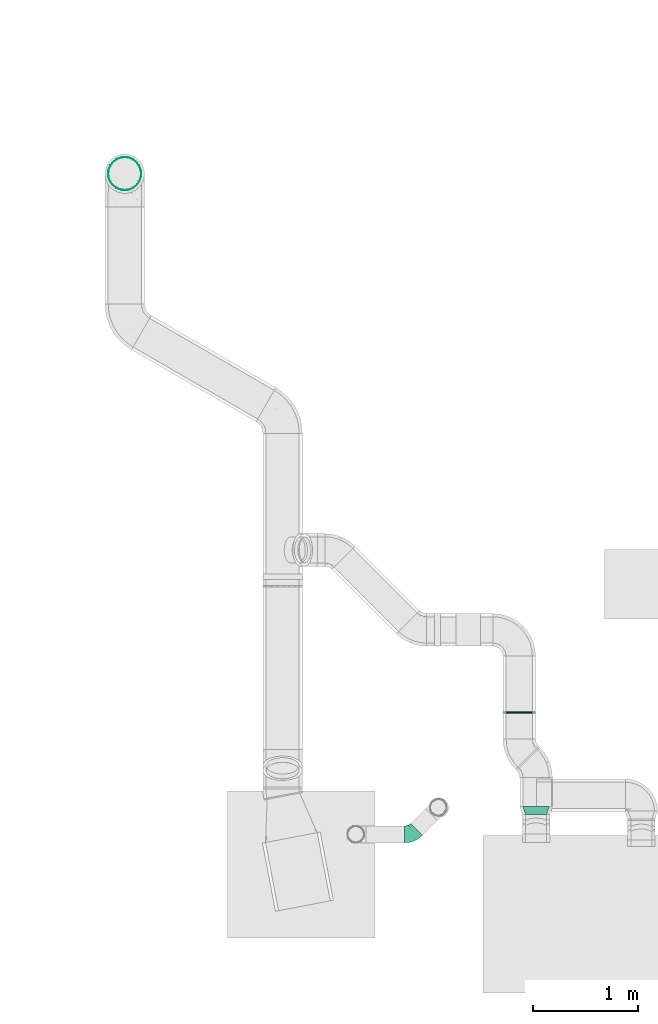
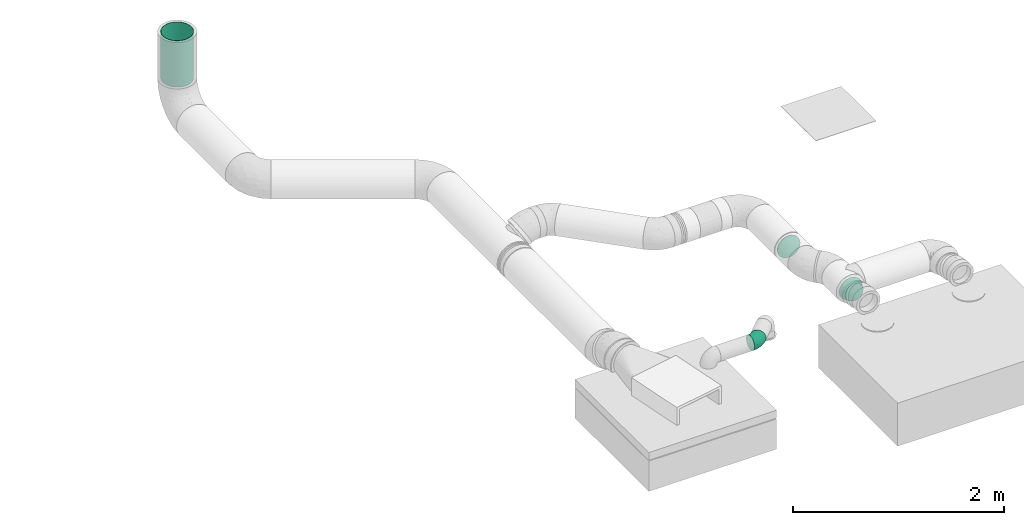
# One storey, part 17 of 21: 3 flow fittings, 1 flow segment.
"""IFC2X3 building model written with IfcOpenShell, lengths in millimetres."""

from ifc_helpers import new_model, entity, si_unit, converted_unit, derived_unit, direction, frame, origin_with_axes, place, context, subcontext, project, spatial, open_shell, faceted_brep, surface_model, source, transform, mapped, type_object, element, save


model = new_model("IFC2X3")

# Units and contexts
model_context = context("Model", 3, precision=0.01, world=frame((0.0, 4.29681676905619e-09, 0.0)), true_north=direction((4.01073788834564e-13, 1.0)))
plan_context = context("Plan", 3, precision=0.01, world=frame((0.0, 4.29681676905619e-09, 0.0)), true_north=direction((4.01073788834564e-13, 1.0)))
body_context = subcontext(model_context, "Body", "Model", "MODEL_VIEW")
ifc_project = project(units=[converted_unit("PLANEANGLEUNIT", "DEGREE", entity("IfcPositiveLengthMeasure", 0.0174532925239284), si_unit("PLANEANGLEUNIT", "RADIAN"), dimensions=[0, 0, 0, 0, 0, 0, 0]), si_unit("AREAUNIT", "SQUARE_METRE"), si_unit("LENGTHUNIT", "METRE", prefix="MILLI"), si_unit("MASSUNIT", "GRAM", prefix="KILO"), si_unit("POWERUNIT", "WATT"), si_unit("PRESSUREUNIT", "PASCAL"), si_unit("FORCEUNIT", "NEWTON", prefix="KILO"), si_unit("ELECTRICVOLTAGEUNIT", "VOLT"), si_unit("ELECTRICCURRENTUNIT", "AMPERE"), si_unit("THERMODYNAMICTEMPERATUREUNIT", "DEGREE_CELSIUS"), si_unit("TIMEUNIT", "SECOND"), si_unit("VOLUMEUNIT", "CUBIC_METRE"), derived_unit("LINEARVELOCITYUNIT", [(si_unit("LENGTHUNIT", "METRE"), 1), (si_unit("TIMEUNIT", "SECOND"), -1)]), derived_unit("VOLUMETRICFLOWRATEUNIT", [(si_unit("VOLUMEUNIT", "CUBIC_METRE"), 1), (si_unit("TIMEUNIT", "SECOND"), -1)]), derived_unit("THERMALTRANSMITTANCEUNIT", [(si_unit("POWERUNIT", "WATT"), 1), (si_unit("THERMODYNAMICTEMPERATUREUNIT", "KELVIN"), -1), (si_unit("AREAUNIT", "SQUARE_METRE"), -1)]), derived_unit("SOUNDPRESSUREUNIT", [(si_unit("PRESSUREUNIT", "PASCAL"), 1)])], contexts=[model_context, plan_context])

# Site, building, storey
site_placement = place(None, frame((0.0, -4.29681676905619e-09, 0.0), z_axis=(0.0, 0.0, 1.0), x_axis=(1.0, 0.0, 0.0)))
site = spatial("IfcSite", under=ifc_project, at=site_placement, Name="ENGM", CompositionType="ELEMENT")
building_placement = place(site_placement, frame((0.0, 4.29681676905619e-09, 0.0), z_axis=(0.0, 0.0, 1.0), x_axis=(1.0, 0.0, 0.0)))
building = spatial("IfcBuilding", under=site, at=building_placement, Name="TI", CompositionType="ELEMENT")
storey_placement = place(building_placement, frame((0.0, 0.0, 210900.0), z_axis=(0.0, 0.0, 1.0), x_axis=(1.0, 0.0, 0.0)))
storey = spatial("IfcBuildingStorey", under=building, at=storey_placement, Name="Nivå F", CompositionType="ELEMENT", Elevation=210900.0)

# Flow fittings
duct_fitting_type_1 = type_object("IfcDuctFittingType", Name="magicirc_joint_001", PredefinedType="CONNECTOR")
shared_shape_1 = source(origin_with_axes(), body_context, "Body", "SurfaceModel", [
    surface_model("IfcShellBasedSurfaceModel", [(0.0, 32.35238, -120.74073), (0.0, 0.0, -125.0), (0.0, 108.25318, -62.5), (0.0, 62.5, -108.25318), (0.0, 88.38835, -88.38835), (0.0, 120.74073, -32.35238), (0.0, -32.35238, -120.74073), (0.0, -62.5, -108.25318), (0.0, -88.38835, -88.38835), (0.0, -125.0, 0.0), (0.0, -108.25318, -62.5), (0.0, -120.74073, -32.35238), (0.0, 125.0, 0.0), (0.0, 108.25318, 62.5), (0.0, 120.74073, 32.35238), (0.0, 88.38835, 88.38835), (0.0, 32.35238, 120.74073), (0.0, 62.5, 108.25318), (0.0, -32.35238, 120.74073), (0.0, -88.38835, 88.38835), (0.0, -62.5, 108.25318), (0.0, -108.25318, 62.5), (0.0, -120.74073, 32.35238), (0.0, 0.0, 125.0), (10.0, 88.38835, -88.38835), (10.0, 0.0, -125.0), (10.0, 32.35238, -120.74073), (10.0, 62.5, -108.25318), (10.0, 108.25318, -62.5), (10.0, 120.74073, -32.35238), (10.0, -32.35238, -120.74073), (10.0, -88.38835, -88.38835), (10.0, -62.5, -108.25318), (10.0, -125.0, 0.0), (10.0, -120.74073, -32.35238), (10.0, -108.25318, -62.5), (10.0, -108.25318, 62.5), (10.0, 88.38835, 88.38835), (10.0, 125.0, 0.0), (10.0, 120.74073, 32.35238), (10.0, 108.25318, 62.5), (10.0, 62.5, 108.25318), (10.0, 32.35238, 120.74073), (10.0, -32.35238, 120.74073), (10.0, -62.5, 108.25318), (10.0, -88.38835, 88.38835), (10.0, -120.74073, 32.35238), (10.0, 0.0, 125.0)], [open_shell([[[0, 1, 2]], [[3, 0, 4]], [[1, 5, 2]], [[4, 0, 2]], [[6, 5, 1]], [[7, 8, 6]], [[9, 6, 8]], [[10, 11, 8]], [[9, 8, 11]], [[9, 5, 6]], [[9, 12, 5]], [[13, 14, 12]], [[15, 13, 12]], [[16, 17, 15]], [[12, 16, 15]], [[9, 18, 16]], [[19, 20, 21]], [[21, 9, 22]], [[9, 21, 20]], [[9, 20, 18]], [[16, 18, 23]], [[12, 9, 16]], [[24, 25, 26]], [[24, 26, 27]], [[28, 29, 25]], [[28, 25, 24]], [[25, 29, 30]], [[30, 31, 32]], [[31, 30, 33]], [[31, 34, 35]], [[34, 31, 33]], [[30, 29, 33]], [[29, 36, 33]], [[37, 38, 39]], [[37, 39, 40]], [[37, 41, 42]], [[38, 37, 43]], [[43, 37, 42]], [[36, 44, 45]], [[46, 33, 36]], [[38, 44, 36]], [[38, 43, 44]], [[47, 43, 42]], [[36, 29, 38]], [[46, 9, 33]], [[36, 22, 46]], [[19, 45, 44]], [[36, 45, 21]], [[20, 44, 43]], [[36, 21, 22]], [[22, 9, 46]], [[18, 47, 23]], [[18, 20, 43]], [[19, 44, 20]], [[19, 21, 45]], [[47, 18, 43]], [[41, 16, 42]], [[37, 17, 41]], [[13, 40, 39]], [[37, 40, 15]], [[14, 39, 38]], [[41, 17, 16]], [[16, 23, 42]], [[14, 13, 39]], [[15, 40, 13]], [[15, 17, 37]], [[12, 14, 38]], [[42, 23, 47]], [[29, 12, 38]], [[28, 5, 29]], [[4, 24, 27]], [[28, 24, 2]], [[3, 27, 26]], [[28, 2, 5]], [[5, 12, 29]], [[0, 25, 1]], [[0, 3, 26]], [[4, 27, 3]], [[4, 2, 24]], [[25, 0, 26]], [[6, 30, 32]], [[7, 32, 31]], [[11, 35, 34]], [[9, 34, 33]], [[31, 35, 8]], [[32, 7, 6]], [[6, 1, 30]], [[8, 35, 10]], [[11, 10, 35]], [[9, 11, 34]], [[8, 7, 31]], [[30, 1, 25]]])]),
])
flow_fitting_1_placement = place(storey_placement, frame((609569.51365, 691985.29135, 2600.0), z_axis=(0.0, 0.0, 1.0), x_axis=(0.0, -1.0, 0.0)))
element("IfcFlowFitting", 1, at=flow_fitting_1_placement, inside=storey, type_object=duct_fitting_type_1, Name="magicirc_joint_001", context=body_context, shape_type="MappedRepresentation", body=[
    mapped(shared_shape_1, transform((0.0, 0.0, 0.0), scale=1.0)),
])
duct_fitting_type_2 = type_object("IfcDuctFittingType", Name="magicirc_reduction_001", PredefinedType="TRANSITION")
shared_shape_2 = source(origin_with_axes(), body_context, "Body", "SurfaceModel", [
    surface_model("IfcShellBasedSurfaceModel", [(0.0, 17.36482, 98.48077), (0.0, 50.0, 86.60254), (0.0, 76.60444, 64.27876), (0.0, -17.36482, 98.48077), (0.0, -50.0, 86.60254), (0.0, -100.0, 0.0), (0.0, -76.60444, -64.27876), (0.0, -93.96926, -34.20201), (75.0, 0.0, 125.0), (75.0, -38.62713, 118.88206), (75.0, -73.47315, 101.12712), (75.0, 73.47315, 101.12712), (75.0, -101.12712, 73.47315), (75.0, 125.0, 0.0), (75.0, -118.88206, 38.62713), (75.0, 38.62713, 118.88206), (75.0, 101.12712, 73.47315), (75.0, 118.88206, 38.62713), (75.0, 0.0, -125.0), (75.0, -118.88206, -38.62713), (75.0, -101.12712, -73.47315), (75.0, -38.62713, -118.88206), (75.0, -73.47315, -101.12712), (75.0, 118.88206, -38.62713), (75.0, 101.12712, -73.47315), (75.0, 73.47315, -101.12712), (75.0, 38.62713, -118.88206), (75.0, -125.0, 0.0), (0.0, 93.96926, 34.20201), (0.0, -93.96926, 34.20201), (0.0, -76.60444, 64.27876), (0.0, 17.36482, -98.48077), (0.0, 93.96926, -34.20201), (0.0, 76.60444, -64.27876), (0.0, 50.0, -86.60254), (0.0, -17.36482, -98.48077), (0.0, -50.0, -86.60254), (0.0, 100.0, 0.0)], [open_shell([[[0, 1, 2]], [[3, 0, 4]], [[5, 6, 7]], [[8, 9, 10]], [[11, 10, 12]], [[10, 11, 8]], [[13, 12, 14]], [[15, 8, 11]], [[16, 13, 17]], [[13, 16, 11]], [[12, 13, 11]], [[14, 18, 13]], [[19, 20, 14]], [[21, 14, 22]], [[14, 20, 22]], [[21, 18, 14]], [[23, 13, 24]], [[25, 24, 13]], [[26, 25, 13]], [[18, 26, 13]], [[19, 14, 27]], [[0, 2, 4]], [[4, 2, 28]], [[4, 29, 30]], [[29, 4, 5]], [[28, 5, 4]], [[28, 31, 5]], [[32, 33, 28]], [[34, 28, 33]], [[28, 34, 31]], [[5, 35, 36]], [[36, 6, 5]], [[5, 31, 35]], [[37, 32, 28]], [[5, 7, 19]], [[22, 6, 36]], [[21, 36, 35]], [[7, 6, 20]], [[27, 5, 19]], [[19, 7, 20]], [[21, 22, 36]], [[6, 22, 20]], [[35, 18, 21]], [[31, 34, 26]], [[32, 37, 23]], [[33, 32, 24]], [[34, 33, 25]], [[34, 25, 26]], [[26, 18, 31]], [[24, 25, 33]], [[32, 23, 24]], [[13, 23, 37]], [[31, 18, 35]], [[37, 28, 17]], [[11, 2, 1]], [[15, 1, 0]], [[28, 2, 16]], [[13, 37, 17]], [[17, 28, 16]], [[15, 11, 1]], [[2, 11, 16]], [[0, 8, 15]], [[3, 4, 9]], [[29, 5, 14]], [[30, 29, 12]], [[4, 30, 10]], [[4, 10, 9]], [[9, 8, 3]], [[12, 10, 30]], [[29, 14, 12]], [[27, 14, 5]], [[3, 8, 0]]])]),
])
flow_fitting_2_placement = place(storey_placement, frame((609729.51365, 691010.55674, 2600.0), z_axis=(0.0, 0.0, 1.0), x_axis=(0.0, 1.0, 0.0)))
element("IfcFlowFitting", 2, at=flow_fitting_2_placement, inside=storey, type_object=duct_fitting_type_2, Name="magicirc_reduction_001", context=body_context, shape_type="MappedRepresentation", body=[
    mapped(shared_shape_2, transform((0.0, 0.0, 0.0), scale=1.0)),
])
duct_fitting_type_3 = type_object("IfcDuctFittingType", Name="magicirc_elbow_full_radius_001", PredefinedType="BEND")
shared_shape_3 = source(origin_with_axes(), body_context, "Body", "SurfaceModel", [
    surface_model("IfcShellBasedSurfaceModel", [(-66.27417, 20.70552, -77.27406), (-66.27417, 0.0, -80.0), (-66.27417, 56.56854, -56.56854), (-66.27417, 40.0, -69.28203), (-66.27417, 77.27406, -20.70552), (-66.27417, 69.28203, -40.0), (-66.27417, -56.56854, -56.56854), (-66.27417, -80.0, 0.0), (-66.27417, 69.28203, 40.0), (-66.27417, -40.0, -69.28203), (-66.27417, -20.70552, -77.27406), (-66.27417, -77.27406, -20.70552), (-66.27417, -69.28203, -40.0), (-66.27417, 80.0, 0.0), (-66.27417, 77.27406, 20.70552), (-66.27417, 20.70552, 77.27406), (-66.27417, 40.0, 69.28203), (-66.27417, 56.56854, 56.56854), (-66.27417, -56.56854, 56.56854), (-66.27417, -77.27406, 20.70552), (-66.27417, -69.28203, 40.0), (-66.27417, -40.0, 69.28203), (-66.27417, -20.70552, 77.27406), (-66.27417, 0.0, 80.0), (32.2219, 61.50393, -77.27406), (86.86291, 6.86292, -56.56854), (46.86291, 46.86291, -80.0), (6.86292, 86.86291, -56.56854), (18.57864, 75.14718, -69.28203), (-2.12688, 95.85271, -40.0), (-9.70563, 103.43146, 0.0), (103.43146, -9.70563, 0.0), (61.50393, 32.2219, -77.27406), (75.14718, 18.57864, -69.28203), (95.85271, -2.12688, -40.0), (101.50393, -7.7781, -20.70552), (-7.7781, 101.50393, -20.70552), (-7.7781, 101.50393, 20.70552), (-2.12688, 95.85271, 40.0), (32.2219, 61.50393, 77.27406), (18.57864, 75.14718, 69.28203), (6.86292, 86.86291, 56.56854), (61.50393, 32.2219, 77.27406), (95.85271, -2.12688, 40.0), (101.50393, -7.7781, 20.70552), (86.86291, 6.86292, 56.56854), (75.14718, 18.57864, 69.28203), (46.86291, 46.86291, 80.0), (20.53801, -49.58315, 43.94225), (-18.89135, -45.75701, 61.51799), (-28.1118, -61.70391, 46.68644), (-34.33916, -76.37202, 15.31927), (-19.45249, -75.38847, 0.0), (42.93526, 1.14729, 72.97961), (-31.17107, -29.54855, 72.97961), (8.44431, -20.38638, 71.81588), (-32.22322, 32.65541, 74.8719), (-25.21463, -8.32436, 78.89345), (-7.39188, 17.84557, 79.76455), (-39.53449, 10.89577, 79.54534), (20.25064, 35.65958, 79.54534), (63.5093, -23.75321, 46.68644), (-15.37255, -69.57828, 27.42176), (-47.4808, 49.0718, 64.37855), (-4.72632, -70.89373, 12.88112), (23.62666, -58.07001, 25.35922), (-37.02413, 66.40501, 50.62929), (-32.89771, 79.42211, 33.20568), (-30.75019, 86.28851, 16.99044), (14.0857, -34.0059, 62.45761), (45.71329, -18.99689, 61.51799), (-22.57689, 54.50543, 65.58295), (69.34551, -36.41796, 14.42051), (60.06931, -38.32924, 27.42176), (45.5871, -51.14622, 12.93716), (-1.12501, 68.27299, 64.37855), (23.71565, 11.94322, 78.89345), (1.50068, 47.12305, 74.81246), (-13.79239, 73.20024, 54.49623), (-35.65949, 86.08964, 0.0), (25.56985, -61.73109, 0.0), (67.06269, -39.5527, 0.0), (-25.21463, -8.32436, -78.89345), (60.06931, -38.32924, -27.42176), (78.28463, -29.72172, -15.31927), (53.47145, -46.78742, -12.88112), (23.71565, 11.94322, -78.89345), (-39.53449, 10.89577, -79.54534), (-42.0077, 61.51307, -54.49623), (-32.89772, 79.42211, -33.20568), (45.71329, -18.99689, -61.51799), (-20.77542, 73.13545, -50.62928), (-39.27153, 82.75886, -16.99044), (-0.30561, 45.87612, -74.8719), (-23.28329, -74.78606, -14.42051), (-15.37255, -69.57828, -27.42176), (3.93089, -68.40079, -12.93716), (-34.38217, 32.25989, -74.81247), (-18.89135, -45.75701, -61.51799), (-28.1118, -61.70391, -46.68644), (8.44432, -20.38638, -71.81588), (-22.57689, 54.50543, -65.58295), (-47.4808, 49.0718, -64.37855), (24.35512, -57.76827, -25.35922), (-7.39188, 17.84557, -79.76455), (14.0857, -34.0059, -62.45761), (20.53801, -49.58315, -43.94225), (-31.17107, -29.54855, -72.97961), (-1.12501, 68.27299, -64.37855), (20.25064, 35.65958, -79.54534), (42.93526, 1.14729, -72.97961), (63.5093, -23.75321, -46.68644)], [open_shell([[[0, 1, 2]], [[3, 0, 2]], [[4, 5, 2]], [[6, 2, 1]], [[2, 7, 8]], [[9, 6, 10]], [[6, 1, 10]], [[11, 7, 12]], [[6, 12, 7]], [[6, 7, 2]], [[13, 4, 2]], [[8, 14, 13]], [[7, 15, 8]], [[8, 15, 16]], [[17, 8, 16]], [[18, 15, 7]], [[19, 20, 7]], [[7, 20, 18]], [[21, 22, 18]], [[22, 15, 18]], [[15, 22, 23]], [[8, 13, 2]], [[24, 25, 26]], [[27, 24, 28]], [[25, 27, 29]], [[25, 24, 27]], [[29, 30, 31]], [[32, 25, 33]], [[32, 26, 25]], [[34, 31, 35]], [[31, 34, 25]], [[29, 31, 25]], [[29, 36, 30]], [[30, 37, 38]], [[39, 31, 38]], [[40, 39, 38]], [[40, 38, 41]], [[39, 42, 31]], [[43, 44, 31]], [[45, 43, 31]], [[45, 42, 46]], [[31, 42, 45]], [[47, 42, 39]], [[31, 30, 38]], [[48, 49, 50]], [[51, 7, 52]], [[46, 42, 53]], [[21, 18, 49]], [[54, 49, 55]], [[50, 49, 18]], [[16, 15, 56]], [[22, 21, 54]], [[57, 58, 59]], [[47, 39, 60]], [[43, 45, 61]], [[23, 22, 57]], [[19, 51, 62]], [[17, 16, 63]], [[62, 64, 65]], [[8, 66, 67]], [[15, 23, 59]], [[62, 51, 64]], [[18, 20, 50]], [[67, 68, 14]], [[19, 62, 20]], [[13, 14, 68]], [[14, 8, 67]], [[69, 48, 70]], [[63, 56, 71]], [[72, 73, 74]], [[48, 62, 65]], [[40, 41, 75]], [[45, 46, 70]], [[63, 66, 17]], [[44, 43, 73]], [[47, 60, 76]], [[48, 61, 70]], [[45, 70, 61]], [[20, 62, 50]], [[70, 46, 53]], [[48, 50, 62]], [[31, 44, 72]], [[73, 43, 61]], [[58, 60, 77]], [[38, 37, 67]], [[67, 78, 38]], [[61, 48, 73]], [[67, 37, 68]], [[8, 17, 66]], [[79, 68, 30]], [[53, 76, 55]], [[71, 56, 77]], [[76, 57, 55]], [[40, 77, 39]], [[57, 76, 58]], [[67, 66, 78]], [[42, 47, 76]], [[54, 57, 22]], [[59, 56, 15]], [[73, 65, 74]], [[71, 75, 78]], [[49, 69, 55]], [[77, 40, 75]], [[58, 77, 56]], [[49, 54, 21]], [[57, 54, 55]], [[76, 53, 42]], [[70, 53, 55]], [[57, 59, 23]], [[56, 59, 58]], [[77, 60, 39]], [[76, 60, 58]], [[56, 63, 16]], [[66, 63, 71]], [[78, 75, 41]], [[77, 75, 71]], [[38, 78, 41]], [[71, 78, 66]], [[7, 51, 19]], [[64, 51, 52]], [[52, 80, 64]], [[80, 74, 65]], [[80, 65, 64]], [[73, 48, 65]], [[80, 81, 74]], [[72, 74, 81]], [[31, 72, 81]], [[44, 73, 72]], [[48, 69, 49]], [[70, 55, 69]], [[30, 68, 37]], [[68, 79, 13]], [[82, 10, 1]], [[83, 84, 85]], [[26, 32, 86]], [[0, 87, 1]], [[88, 5, 89]], [[33, 25, 90]], [[91, 88, 89]], [[35, 83, 34]], [[4, 92, 89]], [[28, 24, 93]], [[94, 95, 96]], [[3, 97, 0]], [[6, 98, 99]], [[82, 86, 100]], [[7, 11, 94]], [[101, 102, 88]], [[103, 96, 95]], [[104, 87, 97]], [[6, 9, 98]], [[105, 106, 98]], [[86, 82, 104]], [[95, 11, 12]], [[107, 9, 10]], [[6, 99, 12]], [[36, 29, 89]], [[29, 27, 91]], [[13, 79, 92]], [[108, 91, 27]], [[30, 36, 92]], [[109, 93, 24]], [[27, 28, 108]], [[89, 5, 4]], [[29, 91, 89]], [[107, 98, 9]], [[101, 108, 93]], [[87, 82, 1]], [[101, 93, 97]], [[2, 102, 3]], [[35, 84, 83]], [[109, 24, 26]], [[110, 32, 33]], [[83, 85, 103]], [[25, 111, 90]], [[100, 110, 90]], [[25, 34, 111]], [[104, 109, 86]], [[111, 106, 90]], [[110, 86, 32]], [[81, 84, 31]], [[106, 111, 83]], [[107, 82, 100]], [[83, 103, 106]], [[99, 106, 95]], [[90, 105, 100]], [[106, 99, 98]], [[36, 89, 92]], [[95, 12, 99]], [[34, 83, 111]], [[97, 3, 102]], [[104, 97, 93]], [[82, 107, 10]], [[98, 107, 100]], [[90, 110, 33]], [[86, 110, 100]], [[97, 87, 0]], [[82, 87, 104]], [[86, 109, 26]], [[93, 109, 104]], [[88, 102, 2]], [[97, 102, 101]], [[5, 88, 2]], [[101, 88, 91]], [[93, 108, 28]], [[91, 108, 101]], [[31, 84, 35]], [[85, 84, 81]], [[81, 80, 85]], [[80, 96, 103]], [[80, 103, 85]], [[95, 106, 103]], [[80, 52, 96]], [[94, 96, 52]], [[7, 94, 52]], [[11, 95, 94]], [[106, 105, 90]], [[98, 100, 105]], [[13, 92, 4]], [[92, 79, 30]]])]),
])
flow_fitting_3_placement = place(storey_placement, frame((608546.18353, 690821.23442, 2566.97847999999), z_axis=(0.0, 0.0, 1.0), x_axis=(1.0, 0.0, 0.0)))
element("IfcFlowFitting", 3, at=flow_fitting_3_placement, inside=storey, type_object=duct_fitting_type_3, Name="magicirc_elbow_full_radius_001", context=body_context, shape_type="MappedRepresentation", body=[
    mapped(shared_shape_3, transform((0.0, 0.0, 0.0), scale=1.0)),
])

# Flow segment
duct_segment_type = type_object("IfcDuctSegmentType", Name="2 - Spiro kanaler, Forsinket stål", PredefinedType="RIGIDSEGMENT")
flow_segment_placement = place(storey_placement, frame((605819.77046, 697101.72271, 4929.75729000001), z_axis=(1.0, 0.0, 0.0), x_axis=(0.0, 0.0, -1.0)))
element("IfcFlowSegment", 4, at=flow_segment_placement, inside=storey, type_object=duct_segment_type, Name="2 - Spiro kanaler, Forsinket stål", context=body_context, shape_type="Brep", body=[
    faceted_brep([(1629.75729000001, 153.137605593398, -27.0022916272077), (1629.75729000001, 155.5, 0.0), (2168.0, 155.5, 0.0), (2168.0, 153.137605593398, -27.0022916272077), (1629.75729000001, 146.122202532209, -53.1841322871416), (2168.0, 146.122202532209, -53.1841322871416), (1629.75729000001, 134.66695028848, -77.7500000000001), (2168.0, 134.66695028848, -77.7500000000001), (1629.75729000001, 119.119910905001, -99.9534733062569), (2168.0, 119.119910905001, -99.9534733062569), (1629.75729000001, 99.9534733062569, -119.119910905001), (2168.0, 99.9534733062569, -119.119910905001), (1629.75729000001, 77.75, -134.66695028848), (2168.0, 77.75, -134.66695028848), (1629.75729000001, 53.1841322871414, -146.122202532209), (2168.0, 53.1841322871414, -146.122202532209), (1629.75729000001, 27.0022916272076, -153.137605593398), (2168.0, 27.0022916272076, -153.137605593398), (1629.75729000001, -2.8564886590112e-14, -155.5), (2168.0, -2.8564886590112e-14, -155.5), (1629.75729000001, -27.0022916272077, -153.137605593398), (2168.0, -27.0022916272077, -153.137605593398), (1629.75729000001, -53.1841322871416, -146.122202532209), (2168.0, -53.1841322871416, -146.122202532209), (1629.75729000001, -77.7500000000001, -134.66695028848), (2168.0, -77.7500000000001, -134.66695028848), (1629.75729000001, -99.9534733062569, -119.119910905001), (2168.0, -99.9534733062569, -119.119910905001), (1629.75729000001, -119.119910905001, -99.9534733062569), (2168.0, -119.119910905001, -99.9534733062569), (1629.75729000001, -134.66695028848, -77.75), (2168.0, -134.66695028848, -77.75), (1629.75729000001, -146.122202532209, -53.1841322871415), (2168.0, -146.122202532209, -53.1841322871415), (1629.75729000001, -153.137605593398, -27.0022916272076), (2168.0, -153.137605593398, -27.0022916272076), (1629.75729000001, -155.5, 1.90432577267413e-14), (2168.0, -155.5, 1.90432577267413e-14), (1629.75729000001, -153.137605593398, 27.0022916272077), (2168.0, -153.137605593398, 27.0022916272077), (1629.75729000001, -146.122202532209, 53.1841322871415), (2168.0, -146.122202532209, 53.1841322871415), (1629.75729000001, -134.66695028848, 77.75), (2168.0, -134.66695028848, 77.75), (1629.75729000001, -119.119910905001, 99.9534733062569), (2168.0, -119.119910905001, 99.9534733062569), (1629.75729000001, -99.9534733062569, 119.119910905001), (2168.0, -99.9534733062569, 119.119910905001), (1629.75729000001, -77.75, 134.66695028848), (2168.0, -77.75, 134.66695028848), (1629.75729000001, -53.1841322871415, 146.122202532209), (2168.0, -53.1841322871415, 146.122202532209), (1629.75729000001, -27.0022916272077, 153.137605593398), (2168.0, -27.0022916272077, 153.137605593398), (1629.75729000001, 9.52162886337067e-15, 155.5), (2168.0, 9.52162886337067e-15, 155.5), (1629.75729000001, 27.0022916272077, 153.137605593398), (2168.0, 27.0022916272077, 153.137605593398), (1629.75729000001, 53.1841322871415, 146.122202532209), (2168.0, 53.1841322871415, 146.122202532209), (1629.75729000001, 77.75, 134.66695028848), (2168.0, 77.75, 134.66695028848), (1629.75729000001, 99.9534733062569, 119.119910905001), (2168.0, 99.9534733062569, 119.119910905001), (1629.75729000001, 119.119910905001, 99.9534733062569), (2168.0, 119.119910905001, 99.9534733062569), (1629.75729000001, 134.66695028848, 77.75), (2168.0, 134.66695028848, 77.75), (1629.75729000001, 146.122202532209, 53.1841322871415), (2168.0, 146.122202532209, 53.1841322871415), (1629.75729000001, 153.137605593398, 27.0022916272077), (2168.0, 153.137605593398, 27.0022916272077), (1629.75729000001, 157.5, 0.0), (1629.75729000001, 155.107221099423, -27.3495879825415), (2168.0, 155.107221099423, -27.3495879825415), (2168.0, 157.5, 0.0), (1629.75729000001, 155.107221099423, 27.3495879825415), (2168.0, 155.107221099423, 27.3495879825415), (1629.75729000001, 148.001587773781, 53.8681725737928), (2168.0, 148.001587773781, 53.8681725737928), (1629.75729000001, 136.399001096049, 78.75), (2168.0, 136.399001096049, 78.75), (1629.75729000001, 120.651999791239, 101.23904852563), (2168.0, 120.651999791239, 101.23904852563), (1629.75729000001, 101.23904852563, 120.651999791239), (2168.0, 101.23904852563, 120.651999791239), (1629.75729000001, 78.75, 136.399001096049), (2168.0, 78.75, 136.399001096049), (1629.75729000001, 53.8681725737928, 148.001587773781), (2168.0, 53.8681725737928, 148.001587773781), (1629.75729000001, 27.3495879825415, 155.107221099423), (2168.0, 27.3495879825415, 155.107221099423), (1629.75729000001, 9.64409354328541e-15, 157.5), (2168.0, 9.64409354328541e-15, 157.5), (1629.75729000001, -27.3495879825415, 155.107221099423), (2168.0, -27.3495879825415, 155.107221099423), (1629.75729000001, -53.8681725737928, 148.001587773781), (2168.0, -53.8681725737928, 148.001587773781), (1629.75729000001, -78.75, 136.399001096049), (2168.0, -78.75, 136.399001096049), (1629.75729000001, -101.23904852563, 120.651999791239), (2168.0, -101.23904852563, 120.651999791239), (1629.75729000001, -120.651999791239, 101.23904852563), (2168.0, -120.651999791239, 101.23904852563), (1629.75729000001, -136.399001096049, 78.75), (2168.0, -136.399001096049, 78.75), (1629.75729000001, -148.001587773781, 53.8681725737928), (2168.0, -148.001587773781, 53.8681725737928), (1629.75729000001, -155.107221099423, 27.3495879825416), (2168.0, -155.107221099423, 27.3495879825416), (1629.75729000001, -157.5, 1.92881870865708e-14), (2168.0, -157.5, 1.92881870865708e-14), (1629.75729000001, -155.107221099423, -27.3495879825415), (2168.0, -155.107221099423, -27.3495879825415), (1629.75729000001, -148.001587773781, -53.8681725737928), (2168.0, -148.001587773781, -53.8681725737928), (1629.75729000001, -136.399001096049, -78.75), (2168.0, -136.399001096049, -78.75), (1629.75729000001, -120.651999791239, -101.23904852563), (2168.0, -120.651999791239, -101.23904852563), (1629.75729000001, -101.23904852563, -120.651999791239), (2168.0, -101.23904852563, -120.651999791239), (1629.75729000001, -78.7500000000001, -136.399001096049), (2168.0, -78.7500000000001, -136.399001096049), (1629.75729000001, -53.8681725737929, -148.001587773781), (2168.0, -53.8681725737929, -148.001587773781), (1629.75729000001, -27.3495879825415, -155.107221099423), (2168.0, -27.3495879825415, -155.107221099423), (1629.75729000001, -2.89322806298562e-14, -157.5), (2168.0, -2.89322806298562e-14, -157.5), (1629.75729000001, 27.3495879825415, -155.107221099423), (2168.0, 27.3495879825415, -155.107221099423), (1629.75729000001, 53.8681725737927, -148.001587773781), (2168.0, 53.8681725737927, -148.001587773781), (1629.75729000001, 78.75, -136.399001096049), (2168.0, 78.75, -136.399001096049), (1629.75729000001, 101.23904852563, -120.651999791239), (2168.0, 101.23904852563, -120.651999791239), (1629.75729000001, 120.651999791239, -101.23904852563), (2168.0, 120.651999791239, -101.23904852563), (1629.75729000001, 136.399001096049, -78.7500000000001), (2168.0, 136.399001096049, -78.7500000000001), (1629.75729000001, 148.001587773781, -53.8681725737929), (2168.0, 148.001587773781, -53.8681725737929)], [[[0, 1, 2, 3]], [[4, 0, 3, 5]], [[6, 4, 5, 7]], [[8, 6, 7, 9]], [[10, 8, 9, 11]], [[12, 10, 11, 13]], [[14, 12, 13, 15]], [[16, 14, 15, 17]], [[18, 16, 17, 19]], [[20, 18, 19, 21]], [[22, 20, 21, 23]], [[24, 22, 23, 25]], [[26, 24, 25, 27]], [[28, 26, 27, 29]], [[30, 28, 29, 31]], [[32, 30, 31, 33]], [[34, 32, 33, 35]], [[36, 34, 35, 37]], [[38, 36, 37, 39]], [[40, 38, 39, 41]], [[42, 40, 41, 43]], [[44, 42, 43, 45]], [[46, 44, 45, 47]], [[48, 46, 47, 49]], [[50, 48, 49, 51]], [[52, 50, 51, 53]], [[54, 52, 53, 55]], [[56, 54, 55, 57]], [[58, 56, 57, 59]], [[60, 58, 59, 61]], [[62, 60, 61, 63]], [[64, 62, 63, 65]], [[66, 64, 65, 67]], [[68, 66, 67, 69]], [[70, 68, 69, 71]], [[1, 70, 71, 2]], [[72, 73, 74, 75]], [[76, 72, 75, 77]], [[78, 76, 77, 79]], [[80, 78, 79, 81]], [[82, 80, 81, 83]], [[84, 82, 83, 85]], [[86, 84, 85, 87]], [[88, 86, 87, 89]], [[90, 88, 89, 91]], [[92, 90, 91, 93]], [[94, 92, 93, 95]], [[96, 94, 95, 97]], [[98, 96, 97, 99]], [[100, 98, 99, 101]], [[102, 100, 101, 103]], [[104, 102, 103, 105]], [[106, 104, 105, 107]], [[108, 106, 107, 109]], [[110, 108, 109, 111]], [[112, 110, 111, 113]], [[114, 112, 113, 115]], [[116, 114, 115, 117]], [[118, 116, 117, 119]], [[120, 118, 119, 121]], [[122, 120, 121, 123]], [[124, 122, 123, 125]], [[126, 124, 125, 127]], [[128, 126, 127, 129]], [[130, 128, 129, 131]], [[132, 130, 131, 133]], [[134, 132, 133, 135]], [[136, 134, 135, 137]], [[138, 136, 137, 139]], [[140, 138, 139, 141]], [[142, 140, 141, 143]], [[73, 142, 143, 74]], [[75, 74, 143, 141, 139, 137, 135, 133, 131, 129, 127, 125, 123, 121, 119, 117, 115, 113, 111, 109, 107, 105, 103, 101, 99, 97, 95, 93, 91, 89, 87, 85, 83, 81, 79, 77], [2, 71, 69, 67, 65, 63, 61, 59, 57, 55, 53, 51, 49, 47, 45, 43, 41, 39, 37, 35, 33, 31, 29, 27, 25, 23, 21, 19, 17, 15, 13, 11, 9, 7, 5, 3]], [[76, 78, 80, 82, 84, 86, 88, 90, 92, 94, 96, 98, 100, 102, 104, 106, 108, 110, 112, 114, 116, 118, 120, 122, 124, 126, 128, 130, 132, 134, 136, 138, 140, 142, 73, 72], [4, 6, 8, 10, 12, 14, 16, 18, 20, 22, 24, 26, 28, 30, 32, 34, 36, 38, 40, 42, 44, 46, 48, 50, 52, 54, 56, 58, 60, 62, 64, 66, 68, 70, 1, 0]]], orient=[[False], [False], [False], [False], [False], [False], [False], [False], [False], [False], [False], [False], [False], [False], [False], [False], [False], [False], [False], [False], [False], [False], [False], [False], [False], [False], [False], [False], [False], [False], [False], [False], [False], [False], [False], [False], [False], [False], [False], [False], [False], [False], [False], [False], [False], [False], [False], [False], [False], [False], [False], [False], [False], [False], [False], [False], [False], [False], [False], [False], [False], [False], [False], [False], [False], [False], [False], [False], [False], [False], [False], [False], [False, False], [False, False]]),
])

save(model, "model.ifc")
